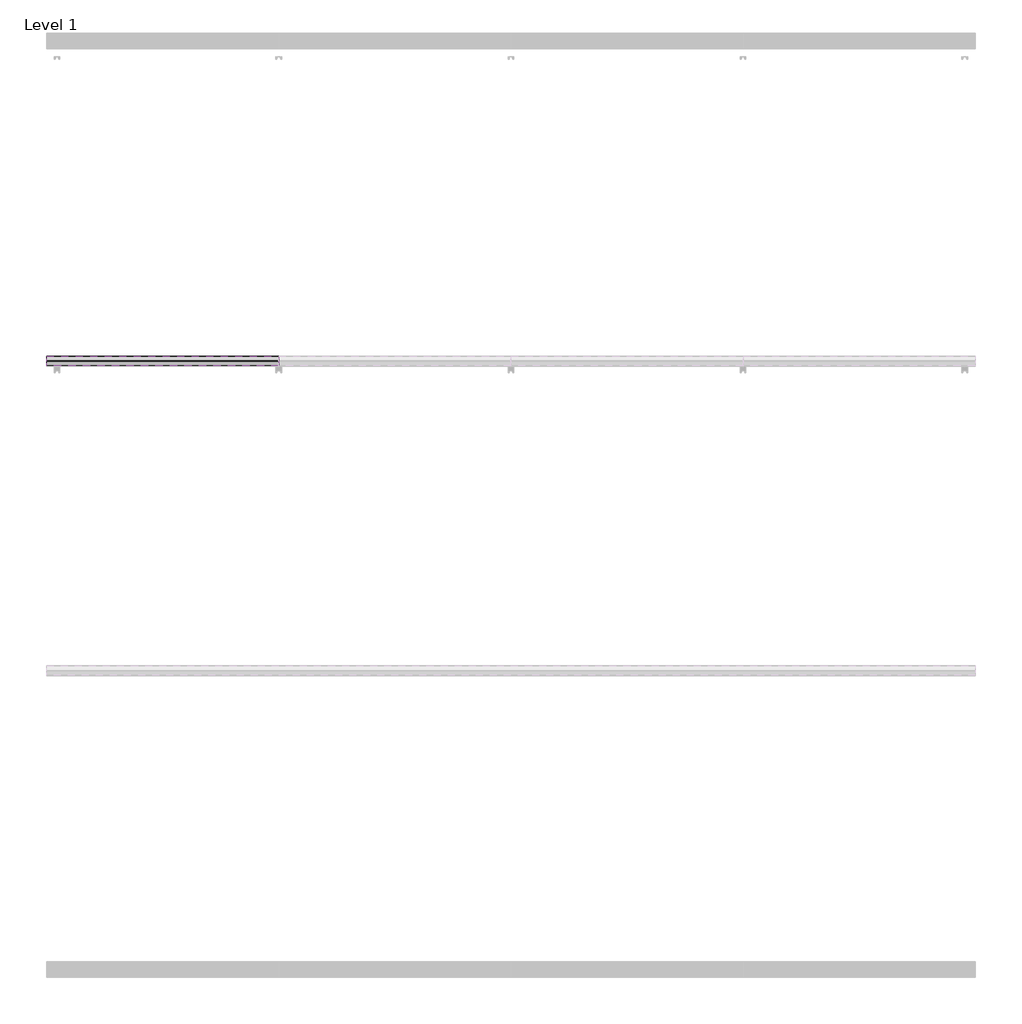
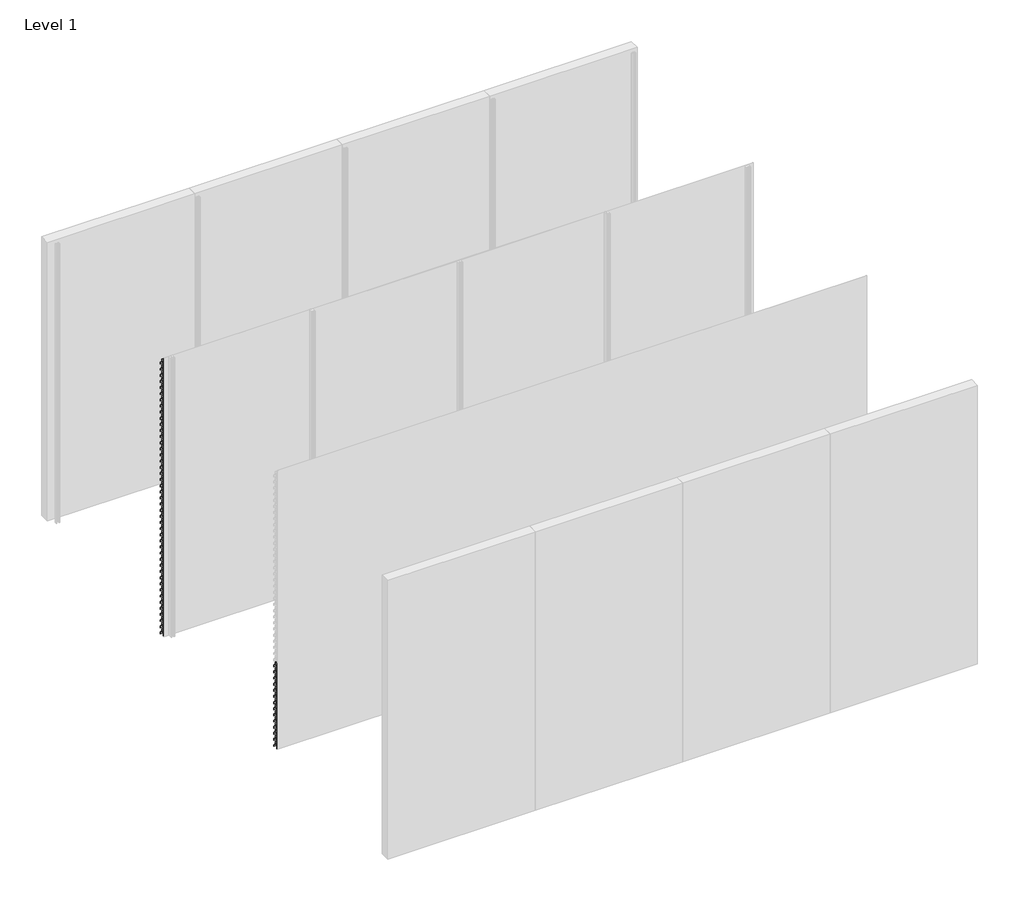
# One storey, part 26 of 35: 70 proxies.
"""IFC4 building model written with IfcOpenShell, lengths in millimetres."""

from ifc_helpers import new_model, si_unit, frame, origin, place, context, project, spatial, polyline, outline, extrude, element, save

model = new_model("IFC4")

# Units and contexts
model_context = context("Model", 3, world=origin())
ifc_project = project(units=[si_unit("LENGTHUNIT", "METRE", prefix="MILLI")], contexts=[model_context])

# Site, building, storey
site = spatial("IfcSite", under=ifc_project)
building = spatial("IfcBuilding", under=site)
storey = spatial("IfcBuildingStorey", under=building, Name="Level 1", Elevation=0.0)

# Proxies
placement = place(None, origin())
element("IfcBuildingElementProxy", 1, Name="Wall Sweeps", at=placement, inside=storey, context=model_context, shape_type="SweptSolid", body=[
    extrude(outline(polyline([(-11936.0, 2916.0), (-11936.0, 2896.0), (-11937.25, 2896.0), (-11937.25, 2915.4342979), (-11968.1138939, 2948.531772), (-11996.7, 2928.4392868), (-11996.7, 2909.6629874), (-11998.0, 2908.8506572), (-11998.0, 2929.1145472), (-11968.537525, 2949.823011), (-11968.537525, 2970.0), (-11967.1772624, 2970.0), (-11967.1772624, 2949.4335207), (-11936.0, 2916.0)])), frame((0.0, 0.0, 0.0), z_axis=(1.0, 0.0, 0.0), x_axis=(0.0, 1.0, 0.0)), (0.0, 0.0, 1.0), 1500.0),
])
element("IfcBuildingElementProxy", 2, Name="Wall Sweeps", at=placement, inside=storey, context=model_context, shape_type="SweptSolid", body=[
    extrude(outline(polyline([(-11936.0, 2850.0), (-11936.0, 2830.0), (-11937.25, 2830.0), (-11937.25, 2849.4342979), (-11968.1138939, 2882.531772), (-11996.7, 2862.4392868), (-11996.7, 2843.6629874), (-11998.0, 2842.8506572), (-11998.0, 2863.1145472), (-11968.537525, 2883.823011), (-11968.537525, 2904.0), (-11967.1772624, 2904.0), (-11967.1772624, 2883.4335207), (-11936.0, 2850.0)])), frame((0.0, 0.0, 0.0), z_axis=(1.0, 0.0, 0.0), x_axis=(0.0, 1.0, 0.0)), (0.0, 0.0, 1.0), 1500.0),
])
element("IfcBuildingElementProxy", 3, Name="Wall Sweeps", at=placement, inside=storey, context=model_context, shape_type="SweptSolid", body=[
    extrude(outline(polyline([(-11936.0, 2784.0), (-11936.0, 2764.0), (-11937.25, 2764.0), (-11937.25, 2783.4342979), (-11968.1138939, 2816.531772), (-11996.7, 2796.4392868), (-11996.7, 2777.6629874), (-11998.0, 2776.8506572), (-11998.0, 2797.1145472), (-11968.537525, 2817.823011), (-11968.537525, 2838.0), (-11967.1772624, 2838.0), (-11967.1772624, 2817.4335207), (-11936.0, 2784.0)])), frame((0.0, 0.0, 0.0), z_axis=(1.0, 0.0, 0.0), x_axis=(0.0, 1.0, 0.0)), (0.0, 0.0, 1.0), 1500.0),
])
element("IfcBuildingElementProxy", 4, Name="Wall Sweeps", at=placement, inside=storey, context=model_context, shape_type="SweptSolid", body=[
    extrude(outline(polyline([(-11936.0, 2718.0), (-11936.0, 2698.0), (-11937.25, 2698.0), (-11937.25, 2717.4342979), (-11968.1138939, 2750.531772), (-11996.7, 2730.4392868), (-11996.7, 2711.6629874), (-11998.0, 2710.8506572), (-11998.0, 2731.1145472), (-11968.537525, 2751.823011), (-11968.537525, 2772.0), (-11967.1772624, 2772.0), (-11967.1772624, 2751.4335207), (-11936.0, 2718.0)])), frame((0.0, 0.0, 0.0), z_axis=(1.0, 0.0, 0.0), x_axis=(0.0, 1.0, 0.0)), (0.0, 0.0, 1.0), 1500.0),
])
element("IfcBuildingElementProxy", 5, Name="Wall Sweeps", at=placement, inside=storey, context=model_context, shape_type="SweptSolid", body=[
    extrude(outline(polyline([(-11936.0, 2652.0), (-11936.0, 2632.0), (-11937.25, 2632.0), (-11937.25, 2651.4342979), (-11968.1138939, 2684.531772), (-11996.7, 2664.4392868), (-11996.7, 2645.6629874), (-11998.0, 2644.8506572), (-11998.0, 2665.1145472), (-11968.537525, 2685.823011), (-11968.537525, 2706.0), (-11967.1772624, 2706.0), (-11967.1772624, 2685.4335207), (-11936.0, 2652.0)])), frame((0.0, 0.0, 0.0), z_axis=(1.0, 0.0, 0.0), x_axis=(0.0, 1.0, 0.0)), (0.0, 0.0, 1.0), 1500.0),
])
element("IfcBuildingElementProxy", 6, Name="Wall Sweeps", at=placement, inside=storey, context=model_context, shape_type="SweptSolid", body=[
    extrude(outline(polyline([(-11936.0, 2586.0), (-11936.0, 2566.0), (-11937.25, 2566.0), (-11937.25, 2585.4342979), (-11968.1138939, 2618.531772), (-11996.7, 2598.4392868), (-11996.7, 2579.6629874), (-11998.0, 2578.8506572), (-11998.0, 2599.1145472), (-11968.537525, 2619.823011), (-11968.537525, 2640.0), (-11967.1772624, 2640.0), (-11967.1772624, 2619.4335207), (-11936.0, 2586.0)])), frame((0.0, 0.0, 0.0), z_axis=(1.0, 0.0, 0.0), x_axis=(0.0, 1.0, 0.0)), (0.0, 0.0, 1.0), 1500.0),
])
element("IfcBuildingElementProxy", 7, Name="Wall Sweeps", at=placement, inside=storey, context=model_context, shape_type="SweptSolid", body=[
    extrude(outline(polyline([(-11936.0, 2520.0), (-11936.0, 2500.0), (-11937.25, 2500.0), (-11937.25, 2519.4342979), (-11968.1138939, 2552.531772), (-11996.7, 2532.4392868), (-11996.7, 2513.6629874), (-11998.0, 2512.8506572), (-11998.0, 2533.1145472), (-11968.537525, 2553.823011), (-11968.537525, 2574.0), (-11967.1772624, 2574.0), (-11967.1772624, 2553.4335207), (-11936.0, 2520.0)])), frame((0.0, 0.0, 0.0), z_axis=(1.0, 0.0, 0.0), x_axis=(0.0, 1.0, 0.0)), (0.0, 0.0, 1.0), 1500.0),
])
element("IfcBuildingElementProxy", 8, Name="Wall Sweeps", at=placement, inside=storey, context=model_context, shape_type="SweptSolid", body=[
    extrude(outline(polyline([(-11936.0, 2454.0), (-11936.0, 2434.0), (-11937.25, 2434.0), (-11937.25, 2453.4342979), (-11968.1138939, 2486.531772), (-11996.7, 2466.4392868), (-11996.7, 2447.6629874), (-11998.0, 2446.8506572), (-11998.0, 2467.1145472), (-11968.537525, 2487.823011), (-11968.537525, 2508.0), (-11967.1772624, 2508.0), (-11967.1772624, 2487.4335207), (-11936.0, 2454.0)])), frame((0.0, 0.0, 0.0), z_axis=(1.0, 0.0, 0.0), x_axis=(0.0, 1.0, 0.0)), (0.0, 0.0, 1.0), 1500.0),
])
element("IfcBuildingElementProxy", 9, Name="Wall Sweeps", at=placement, inside=storey, context=model_context, shape_type="SweptSolid", body=[
    extrude(outline(polyline([(-11936.0, 2388.0), (-11936.0, 2368.0), (-11937.25, 2368.0), (-11937.25, 2387.4342979), (-11968.1138939, 2420.531772), (-11996.7, 2400.4392868), (-11996.7, 2381.6629874), (-11998.0, 2380.8506572), (-11998.0, 2401.1145472), (-11968.537525, 2421.823011), (-11968.537525, 2442.0), (-11967.1772624, 2442.0), (-11967.1772624, 2421.4335207), (-11936.0, 2388.0)])), frame((0.0, 0.0, 0.0), z_axis=(1.0, 0.0, 0.0), x_axis=(0.0, 1.0, 0.0)), (0.0, 0.0, 1.0), 1500.0),
])
element("IfcBuildingElementProxy", 10, Name="Wall Sweeps", at=placement, inside=storey, context=model_context, shape_type="SweptSolid", body=[
    extrude(outline(polyline([(-11936.0, 2322.0), (-11936.0, 2302.0), (-11937.25, 2302.0), (-11937.25, 2321.4342979), (-11968.1138939, 2354.531772), (-11996.7, 2334.4392868), (-11996.7, 2315.6629874), (-11998.0, 2314.8506572), (-11998.0, 2335.1145472), (-11968.537525, 2355.823011), (-11968.537525, 2376.0), (-11967.1772624, 2376.0), (-11967.1772624, 2355.4335207), (-11936.0, 2322.0)])), frame((0.0, 0.0, 0.0), z_axis=(1.0, 0.0, 0.0), x_axis=(0.0, 1.0, 0.0)), (0.0, 0.0, 1.0), 1500.0),
])
element("IfcBuildingElementProxy", 11, Name="Wall Sweeps", at=placement, inside=storey, context=model_context, shape_type="SweptSolid", body=[
    extrude(outline(polyline([(-11936.0, 2256.0), (-11936.0, 2236.0), (-11937.25, 2236.0), (-11937.25, 2255.4342979), (-11968.1138939, 2288.531772), (-11996.7, 2268.4392868), (-11996.7, 2249.6629874), (-11998.0, 2248.8506572), (-11998.0, 2269.1145472), (-11968.537525, 2289.823011), (-11968.537525, 2310.0), (-11967.1772624, 2310.0), (-11967.1772624, 2289.4335207), (-11936.0, 2256.0)])), frame((0.0, 0.0, 0.0), z_axis=(1.0, 0.0, 0.0), x_axis=(0.0, 1.0, 0.0)), (0.0, 0.0, 1.0), 1500.0),
])
element("IfcBuildingElementProxy", 12, Name="Wall Sweeps", at=placement, inside=storey, context=model_context, shape_type="SweptSolid", body=[
    extrude(outline(polyline([(-11936.0, 2190.0), (-11936.0, 2170.0), (-11937.25, 2170.0), (-11937.25, 2189.4342979), (-11968.1138939, 2222.531772), (-11996.7, 2202.4392868), (-11996.7, 2183.6629874), (-11998.0, 2182.8506572), (-11998.0, 2203.1145472), (-11968.537525, 2223.823011), (-11968.537525, 2244.0), (-11967.1772624, 2244.0), (-11967.1772624, 2223.4335207), (-11936.0, 2190.0)])), frame((0.0, 0.0, 0.0), z_axis=(1.0, 0.0, 0.0), x_axis=(0.0, 1.0, 0.0)), (0.0, 0.0, 1.0), 1500.0),
])
element("IfcBuildingElementProxy", 13, Name="Wall Sweeps", at=placement, inside=storey, context=model_context, shape_type="SweptSolid", body=[
    extrude(outline(polyline([(-11936.0, 2124.0), (-11936.0, 2104.0), (-11937.25, 2104.0), (-11937.25, 2123.4342979), (-11968.1138939, 2156.531772), (-11996.7, 2136.4392868), (-11996.7, 2117.6629874), (-11998.0, 2116.8506572), (-11998.0, 2137.1145472), (-11968.537525, 2157.823011), (-11968.537525, 2178.0), (-11967.1772624, 2178.0), (-11967.1772624, 2157.4335207), (-11936.0, 2124.0)])), frame((0.0, 0.0, 0.0), z_axis=(1.0, 0.0, 0.0), x_axis=(0.0, 1.0, 0.0)), (0.0, 0.0, 1.0), 1500.0),
])
element("IfcBuildingElementProxy", 14, Name="Wall Sweeps", at=placement, inside=storey, context=model_context, shape_type="SweptSolid", body=[
    extrude(outline(polyline([(-11936.0, 2058.0), (-11936.0, 2038.0), (-11937.25, 2038.0), (-11937.25, 2057.4342979), (-11968.1138939, 2090.531772), (-11996.7, 2070.4392868), (-11996.7, 2051.6629874), (-11998.0, 2050.8506572), (-11998.0, 2071.1145472), (-11968.537525, 2091.823011), (-11968.537525, 2112.0), (-11967.1772624, 2112.0), (-11967.1772624, 2091.4335207), (-11936.0, 2058.0)])), frame((0.0, 0.0, 0.0), z_axis=(1.0, 0.0, 0.0), x_axis=(0.0, 1.0, 0.0)), (0.0, 0.0, 1.0), 1500.0),
])
element("IfcBuildingElementProxy", 15, Name="Wall Sweeps", at=placement, inside=storey, context=model_context, shape_type="SweptSolid", body=[
    extrude(outline(polyline([(-11936.0, 1992.0), (-11936.0, 1972.0), (-11937.25, 1972.0), (-11937.25, 1991.4342979), (-11968.1138939, 2024.531772), (-11996.7, 2004.4392868), (-11996.7, 1985.6629874), (-11998.0, 1984.8506572), (-11998.0, 2005.1145472), (-11968.537525, 2025.823011), (-11968.537525, 2046.0), (-11967.1772624, 2046.0), (-11967.1772624, 2025.4335207), (-11936.0, 1992.0)])), frame((0.0, 0.0, 0.0), z_axis=(1.0, 0.0, 0.0), x_axis=(0.0, 1.0, 0.0)), (0.0, 0.0, 1.0), 1500.0),
])
element("IfcBuildingElementProxy", 16, Name="Wall Sweeps", at=placement, inside=storey, context=model_context, shape_type="SweptSolid", body=[
    extrude(outline(polyline([(-11936.0, 1926.0), (-11936.0, 1906.0), (-11937.25, 1906.0), (-11937.25, 1925.4342979), (-11968.1138939, 1958.531772), (-11996.7, 1938.4392868), (-11996.7, 1919.6629874), (-11998.0, 1918.8506572), (-11998.0, 1939.1145472), (-11968.537525, 1959.823011), (-11968.537525, 1980.0), (-11967.1772624, 1980.0), (-11967.1772624, 1959.4335207), (-11936.0, 1926.0)])), frame((0.0, 0.0, 0.0), z_axis=(1.0, 0.0, 0.0), x_axis=(0.0, 1.0, 0.0)), (0.0, 0.0, 1.0), 1500.0),
])
element("IfcBuildingElementProxy", 17, Name="Wall Sweeps", at=placement, inside=storey, context=model_context, shape_type="SweptSolid", body=[
    extrude(outline(polyline([(-11936.0, 1860.0), (-11936.0, 1840.0), (-11937.25, 1840.0), (-11937.25, 1859.4342979), (-11968.1138939, 1892.531772), (-11996.7, 1872.4392868), (-11996.7, 1853.6629874), (-11998.0, 1852.8506572), (-11998.0, 1873.1145472), (-11968.537525, 1893.823011), (-11968.537525, 1914.0), (-11967.1772624, 1914.0), (-11967.1772624, 1893.4335207), (-11936.0, 1860.0)])), frame((0.0, 0.0, 0.0), z_axis=(1.0, 0.0, 0.0), x_axis=(0.0, 1.0, 0.0)), (0.0, 0.0, 1.0), 1500.0),
])
element("IfcBuildingElementProxy", 18, Name="Wall Sweeps", at=placement, inside=storey, context=model_context, shape_type="SweptSolid", body=[
    extrude(outline(polyline([(-11936.0, 1794.0), (-11936.0, 1774.0), (-11937.25, 1774.0), (-11937.25, 1793.4342979), (-11968.1138939, 1826.531772), (-11996.7, 1806.4392868), (-11996.7, 1787.6629874), (-11998.0, 1786.8506572), (-11998.0, 1807.1145472), (-11968.537525, 1827.823011), (-11968.537525, 1848.0), (-11967.1772624, 1848.0), (-11967.1772624, 1827.4335207), (-11936.0, 1794.0)])), frame((0.0, 0.0, 0.0), z_axis=(1.0, 0.0, 0.0), x_axis=(0.0, 1.0, 0.0)), (0.0, 0.0, 1.0), 1500.0),
])
element("IfcBuildingElementProxy", 19, Name="Wall Sweeps", at=placement, inside=storey, context=model_context, shape_type="SweptSolid", body=[
    extrude(outline(polyline([(-11936.0, 1728.0), (-11936.0, 1708.0), (-11937.25, 1708.0), (-11937.25, 1727.4342979), (-11968.1138939, 1760.531772), (-11996.7, 1740.4392868), (-11996.7, 1721.6629874), (-11998.0, 1720.8506572), (-11998.0, 1741.1145472), (-11968.537525, 1761.823011), (-11968.537525, 1782.0), (-11967.1772624, 1782.0), (-11967.1772624, 1761.4335207), (-11936.0, 1728.0)])), frame((0.0, 0.0, 0.0), z_axis=(1.0, 0.0, 0.0), x_axis=(0.0, 1.0, 0.0)), (0.0, 0.0, 1.0), 1500.0),
])
element("IfcBuildingElementProxy", 20, Name="Wall Sweeps", at=placement, inside=storey, context=model_context, shape_type="SweptSolid", body=[
    extrude(outline(polyline([(-11936.0, 1662.0), (-11936.0, 1642.0), (-11937.25, 1642.0), (-11937.25, 1661.4342979), (-11968.1138939, 1694.531772), (-11996.7, 1674.4392868), (-11996.7, 1655.6629874), (-11998.0, 1654.8506572), (-11998.0, 1675.1145472), (-11968.537525, 1695.823011), (-11968.537525, 1716.0), (-11967.1772624, 1716.0), (-11967.1772624, 1695.4335207), (-11936.0, 1662.0)])), frame((0.0, 0.0, 0.0), z_axis=(1.0, 0.0, 0.0), x_axis=(0.0, 1.0, 0.0)), (0.0, 0.0, 1.0), 1500.0),
])
element("IfcBuildingElementProxy", 21, Name="Wall Sweeps", at=placement, inside=storey, context=model_context, shape_type="SweptSolid", body=[
    extrude(outline(polyline([(-11936.0, 1596.0), (-11936.0, 1576.0), (-11937.25, 1576.0), (-11937.25, 1595.4342979), (-11968.1138939, 1628.531772), (-11996.7, 1608.4392868), (-11996.7, 1589.6629874), (-11998.0, 1588.8506572), (-11998.0, 1609.1145472), (-11968.537525, 1629.823011), (-11968.537525, 1650.0), (-11967.1772624, 1650.0), (-11967.1772624, 1629.4335207), (-11936.0, 1596.0)])), frame((0.0, 0.0, 0.0), z_axis=(1.0, 0.0, 0.0), x_axis=(0.0, 1.0, 0.0)), (0.0, 0.0, 1.0), 1500.0),
])
element("IfcBuildingElementProxy", 22, Name="Wall Sweeps", at=placement, inside=storey, context=model_context, shape_type="SweptSolid", body=[
    extrude(outline(polyline([(-11936.0, 1530.0), (-11936.0, 1510.0), (-11937.25, 1510.0), (-11937.25, 1529.4342979), (-11968.1138939, 1562.531772), (-11996.7, 1542.4392868), (-11996.7, 1523.6629874), (-11998.0, 1522.8506572), (-11998.0, 1543.1145472), (-11968.537525, 1563.823011), (-11968.537525, 1584.0), (-11967.1772624, 1584.0), (-11967.1772624, 1563.4335207), (-11936.0, 1530.0)])), frame((0.0, 0.0, 0.0), z_axis=(1.0, 0.0, 0.0), x_axis=(0.0, 1.0, 0.0)), (0.0, 0.0, 1.0), 1500.0),
])
element("IfcBuildingElementProxy", 23, Name="Wall Sweeps", at=placement, inside=storey, context=model_context, shape_type="SweptSolid", body=[
    extrude(outline(polyline([(-11936.0, 1464.0), (-11936.0, 1444.0), (-11937.25, 1444.0), (-11937.25, 1463.4342979), (-11968.1138939, 1496.531772), (-11996.7, 1476.4392868), (-11996.7, 1457.6629874), (-11998.0, 1456.8506572), (-11998.0, 1477.1145472), (-11968.537525, 1497.823011), (-11968.537525, 1518.0), (-11967.1772624, 1518.0), (-11967.1772624, 1497.4335207), (-11936.0, 1464.0)])), frame((0.0, 0.0, 0.0), z_axis=(1.0, 0.0, 0.0), x_axis=(0.0, 1.0, 0.0)), (0.0, 0.0, 1.0), 1500.0),
])
element("IfcBuildingElementProxy", 24, Name="Wall Sweeps", at=placement, inside=storey, context=model_context, shape_type="SweptSolid", body=[
    extrude(outline(polyline([(-11936.0, 1398.0), (-11936.0, 1378.0), (-11937.25, 1378.0), (-11937.25, 1397.4342979), (-11968.1138939, 1430.531772), (-11996.7, 1410.4392868), (-11996.7, 1391.6629874), (-11998.0, 1390.8506572), (-11998.0, 1411.1145472), (-11968.537525, 1431.823011), (-11968.537525, 1452.0), (-11967.1772624, 1452.0), (-11967.1772624, 1431.4335207), (-11936.0, 1398.0)])), frame((0.0, 0.0, 0.0), z_axis=(1.0, 0.0, 0.0), x_axis=(0.0, 1.0, 0.0)), (0.0, 0.0, 1.0), 1500.0),
])
element("IfcBuildingElementProxy", 25, Name="Wall Sweeps", at=placement, inside=storey, context=model_context, shape_type="SweptSolid", body=[
    extrude(outline(polyline([(-11936.0, 1332.0), (-11936.0, 1312.0), (-11937.25, 1312.0), (-11937.25, 1331.4342979), (-11968.1138939, 1364.531772), (-11996.7, 1344.4392868), (-11996.7, 1325.6629874), (-11998.0, 1324.8506572), (-11998.0, 1345.1145472), (-11968.537525, 1365.823011), (-11968.537525, 1386.0), (-11967.1772624, 1386.0), (-11967.1772624, 1365.4335207), (-11936.0, 1332.0)])), frame((0.0, 0.0, 0.0), z_axis=(1.0, 0.0, 0.0), x_axis=(0.0, 1.0, 0.0)), (0.0, 0.0, 1.0), 1500.0),
])
element("IfcBuildingElementProxy", 26, Name="Wall Sweeps", at=placement, inside=storey, context=model_context, shape_type="SweptSolid", body=[
    extrude(outline(polyline([(-11936.0, 1266.0), (-11936.0, 1246.0), (-11937.25, 1246.0), (-11937.25, 1265.4342979), (-11968.1138939, 1298.531772), (-11996.7, 1278.4392868), (-11996.7, 1259.6629874), (-11998.0, 1258.8506572), (-11998.0, 1279.1145472), (-11968.537525, 1299.823011), (-11968.537525, 1320.0), (-11967.1772624, 1320.0), (-11967.1772624, 1299.4335207), (-11936.0, 1266.0)])), frame((0.0, 0.0, 0.0), z_axis=(1.0, 0.0, 0.0), x_axis=(0.0, 1.0, 0.0)), (0.0, 0.0, 1.0), 1500.0),
])
element("IfcBuildingElementProxy", 27, Name="Wall Sweeps", at=placement, inside=storey, context=model_context, shape_type="SweptSolid", body=[
    extrude(outline(polyline([(-11936.0, 1200.0), (-11936.0, 1180.0), (-11937.25, 1180.0), (-11937.25, 1199.4342979), (-11968.1138939, 1232.531772), (-11996.7, 1212.4392868), (-11996.7, 1193.6629874), (-11998.0, 1192.8506572), (-11998.0, 1213.1145472), (-11968.537525, 1233.823011), (-11968.537525, 1254.0), (-11967.1772624, 1254.0), (-11967.1772624, 1233.4335207), (-11936.0, 1200.0)])), frame((0.0, 0.0, 0.0), z_axis=(1.0, 0.0, 0.0), x_axis=(0.0, 1.0, 0.0)), (0.0, 0.0, 1.0), 1500.0),
])
element("IfcBuildingElementProxy", 28, Name="Wall Sweeps", at=placement, inside=storey, context=model_context, shape_type="SweptSolid", body=[
    extrude(outline(polyline([(-11936.0, 1134.0), (-11936.0, 1114.0), (-11937.25, 1114.0), (-11937.25, 1133.4342979), (-11968.1138939, 1166.531772), (-11996.7, 1146.4392868), (-11996.7, 1127.6629874), (-11998.0, 1126.8506572), (-11998.0, 1147.1145472), (-11968.537525, 1167.823011), (-11968.537525, 1188.0), (-11967.1772624, 1188.0), (-11967.1772624, 1167.4335207), (-11936.0, 1134.0)])), frame((0.0, 0.0, 0.0), z_axis=(1.0, 0.0, 0.0), x_axis=(0.0, 1.0, 0.0)), (0.0, 0.0, 1.0), 1500.0),
])
element("IfcBuildingElementProxy", 29, Name="Wall Sweeps", at=placement, inside=storey, context=model_context, shape_type="SweptSolid", body=[
    extrude(outline(polyline([(-11936.0, 1068.0), (-11936.0, 1048.0), (-11937.25, 1048.0), (-11937.25, 1067.4342979), (-11968.1138939, 1100.531772), (-11996.7, 1080.4392868), (-11996.7, 1061.6629874), (-11998.0, 1060.8506572), (-11998.0, 1081.1145472), (-11968.537525, 1101.823011), (-11968.537525, 1122.0), (-11967.1772624, 1122.0), (-11967.1772624, 1101.4335207), (-11936.0, 1068.0)])), frame((0.0, 0.0, 0.0), z_axis=(1.0, 0.0, 0.0), x_axis=(0.0, 1.0, 0.0)), (0.0, 0.0, 1.0), 1500.0),
])
element("IfcBuildingElementProxy", 30, Name="Wall Sweeps", at=placement, inside=storey, context=model_context, shape_type="SweptSolid", body=[
    extrude(outline(polyline([(-11936.0, 1002.0), (-11936.0, 982.0), (-11937.25, 982.0), (-11937.25, 1001.4342979), (-11968.1138939, 1034.531772), (-11996.7, 1014.4392868), (-11996.7, 995.6629874), (-11998.0, 994.8506572), (-11998.0, 1015.1145472), (-11968.537525, 1035.823011), (-11968.537525, 1056.0), (-11967.1772624, 1056.0), (-11967.1772624, 1035.4335207), (-11936.0, 1002.0)])), frame((0.0, 0.0, 0.0), z_axis=(1.0, 0.0, 0.0), x_axis=(0.0, 1.0, 0.0)), (0.0, 0.0, 1.0), 1500.0),
])
element("IfcBuildingElementProxy", 31, Name="Wall Sweeps", at=placement, inside=storey, context=model_context, shape_type="SweptSolid", body=[
    extrude(outline(polyline([(-11936.0, 936.0), (-11936.0, 916.0), (-11937.25, 916.0), (-11937.25, 935.4342979), (-11968.1138939, 968.531772), (-11996.7, 948.4392868), (-11996.7, 929.6629874), (-11998.0, 928.8506572), (-11998.0, 949.1145472), (-11968.537525, 969.823011), (-11968.537525, 990.0), (-11967.1772624, 990.0), (-11967.1772624, 969.4335207), (-11936.0, 936.0)])), frame((0.0, 0.0, 0.0), z_axis=(1.0, 0.0, 0.0), x_axis=(0.0, 1.0, 0.0)), (0.0, 0.0, 1.0), 1500.0),
])
element("IfcBuildingElementProxy", 32, Name="Wall Sweeps", at=placement, inside=storey, context=model_context, shape_type="SweptSolid", body=[
    extrude(outline(polyline([(-11936.0, 870.0), (-11936.0, 850.0), (-11937.25, 850.0), (-11937.25, 869.4342979), (-11968.1138939, 902.531772), (-11996.7, 882.4392868), (-11996.7, 863.6629874), (-11998.0, 862.8506572), (-11998.0, 883.1145472), (-11968.537525, 903.823011), (-11968.537525, 924.0), (-11967.1772624, 924.0), (-11967.1772624, 903.4335207), (-11936.0, 870.0)])), frame((0.0, 0.0, 0.0), z_axis=(1.0, 0.0, 0.0), x_axis=(0.0, 1.0, 0.0)), (0.0, 0.0, 1.0), 1500.0),
])
element("IfcBuildingElementProxy", 33, Name="Wall Sweeps", at=placement, inside=storey, context=model_context, shape_type="SweptSolid", body=[
    extrude(outline(polyline([(-11936.0, 804.0), (-11936.0, 784.0), (-11937.25, 784.0), (-11937.25, 803.4342979), (-11968.1138939, 836.531772), (-11996.7, 816.4392868), (-11996.7, 797.6629874), (-11998.0, 796.8506572), (-11998.0, 817.1145472), (-11968.537525, 837.823011), (-11968.537525, 858.0), (-11967.1772624, 858.0), (-11967.1772624, 837.4335207), (-11936.0, 804.0)])), frame((0.0, 0.0, 0.0), z_axis=(1.0, 0.0, 0.0), x_axis=(0.0, 1.0, 0.0)), (0.0, 0.0, 1.0), 1500.0),
])
element("IfcBuildingElementProxy", 34, Name="Wall Sweeps", at=placement, inside=storey, context=model_context, shape_type="SweptSolid", body=[
    extrude(outline(polyline([(-11936.0, 738.0), (-11936.0, 718.0), (-11937.25, 718.0), (-11937.25, 737.4342979), (-11968.1138939, 770.531772), (-11996.7, 750.4392868), (-11996.7, 731.6629874), (-11998.0, 730.8506572), (-11998.0, 751.1145472), (-11968.537525, 771.823011), (-11968.537525, 792.0), (-11967.1772624, 792.0), (-11967.1772624, 771.4335207), (-11936.0, 738.0)])), frame((0.0, 0.0, 0.0), z_axis=(1.0, 0.0, 0.0), x_axis=(0.0, 1.0, 0.0)), (0.0, 0.0, 1.0), 1500.0),
])
element("IfcBuildingElementProxy", 35, Name="Wall Sweeps", at=placement, inside=storey, context=model_context, shape_type="SweptSolid", body=[
    extrude(outline(polyline([(-11936.0, 672.0), (-11936.0, 652.0), (-11937.25, 652.0), (-11937.25, 671.4342979), (-11968.1138939, 704.531772), (-11996.7, 684.4392868), (-11996.7, 665.6629874), (-11998.0, 664.8506572), (-11998.0, 685.1145472), (-11968.537525, 705.823011), (-11968.537525, 726.0), (-11967.1772624, 726.0), (-11967.1772624, 705.4335207), (-11936.0, 672.0)])), frame((0.0, 0.0, 0.0), z_axis=(1.0, 0.0, 0.0), x_axis=(0.0, 1.0, 0.0)), (0.0, 0.0, 1.0), 1500.0),
])
element("IfcBuildingElementProxy", 36, Name="Wall Sweeps", at=placement, inside=storey, context=model_context, shape_type="SweptSolid", body=[
    extrude(outline(polyline([(-11936.0, 606.0), (-11936.0, 586.0), (-11937.25, 586.0), (-11937.25, 605.4342979), (-11968.1138939, 638.531772), (-11996.7, 618.4392868), (-11996.7, 599.6629874), (-11998.0, 598.8506572), (-11998.0, 619.1145472), (-11968.537525, 639.823011), (-11968.537525, 660.0), (-11967.1772624, 660.0), (-11967.1772624, 639.4335207), (-11936.0, 606.0)])), frame((0.0, 0.0, 0.0), z_axis=(1.0, 0.0, 0.0), x_axis=(0.0, 1.0, 0.0)), (0.0, 0.0, 1.0), 1500.0),
])
element("IfcBuildingElementProxy", 37, Name="Wall Sweeps", at=placement, inside=storey, context=model_context, shape_type="SweptSolid", body=[
    extrude(outline(polyline([(-11936.0, 540.0), (-11936.0, 520.0), (-11937.25, 520.0), (-11937.25, 539.4342979), (-11968.1138939, 572.531772), (-11996.7, 552.4392868), (-11996.7, 533.6629874), (-11998.0, 532.8506572), (-11998.0, 553.1145472), (-11968.537525, 573.823011), (-11968.537525, 594.0), (-11967.1772624, 594.0), (-11967.1772624, 573.4335207), (-11936.0, 540.0)])), frame((0.0, 0.0, 0.0), z_axis=(1.0, 0.0, 0.0), x_axis=(0.0, 1.0, 0.0)), (0.0, 0.0, 1.0), 1500.0),
])
element("IfcBuildingElementProxy", 38, Name="Wall Sweeps", at=placement, inside=storey, context=model_context, shape_type="SweptSolid", body=[
    extrude(outline(polyline([(-11936.0, 474.0), (-11936.0, 454.0), (-11937.25, 454.0), (-11937.25, 473.4342979), (-11968.1138939, 506.531772), (-11996.7, 486.4392868), (-11996.7, 467.6629874), (-11998.0, 466.8506572), (-11998.0, 487.1145472), (-11968.537525, 507.823011), (-11968.537525, 528.0), (-11967.1772624, 528.0), (-11967.1772624, 507.4335207), (-11936.0, 474.0)])), frame((0.0, 0.0, 0.0), z_axis=(1.0, 0.0, 0.0), x_axis=(0.0, 1.0, 0.0)), (0.0, 0.0, 1.0), 1500.0),
])
element("IfcBuildingElementProxy", 39, Name="Wall Sweeps", at=placement, inside=storey, context=model_context, shape_type="SweptSolid", body=[
    extrude(outline(polyline([(-11936.0, 408.0), (-11936.0, 388.0), (-11937.25, 388.0), (-11937.25, 407.4342979), (-11968.1138939, 440.531772), (-11996.7, 420.4392868), (-11996.7, 401.6629874), (-11998.0, 400.8506572), (-11998.0, 421.1145472), (-11968.537525, 441.823011), (-11968.537525, 462.0), (-11967.1772624, 462.0), (-11967.1772624, 441.4335207), (-11936.0, 408.0)])), frame((0.0, 0.0, 0.0), z_axis=(1.0, 0.0, 0.0), x_axis=(0.0, 1.0, 0.0)), (0.0, 0.0, 1.0), 1500.0),
])
element("IfcBuildingElementProxy", 40, Name="Wall Sweeps", at=placement, inside=storey, context=model_context, shape_type="SweptSolid", body=[
    extrude(outline(polyline([(-11936.0, 342.0), (-11936.0, 322.0), (-11937.25, 322.0), (-11937.25, 341.4342979), (-11968.1138939, 374.531772), (-11996.7, 354.4392868), (-11996.7, 335.6629874), (-11998.0, 334.8506572), (-11998.0, 355.1145472), (-11968.537525, 375.823011), (-11968.537525, 396.0), (-11967.1772624, 396.0), (-11967.1772624, 375.4335207), (-11936.0, 342.0)])), frame((0.0, 0.0, 0.0), z_axis=(1.0, 0.0, 0.0), x_axis=(0.0, 1.0, 0.0)), (0.0, 0.0, 1.0), 1500.0),
])
element("IfcBuildingElementProxy", 41, Name="Wall Sweeps", at=placement, inside=storey, context=model_context, shape_type="SweptSolid", body=[
    extrude(outline(polyline([(-11936.0, 276.0), (-11936.0, 256.0), (-11937.25, 256.0), (-11937.25, 275.4342979), (-11968.1138939, 308.531772), (-11996.7, 288.4392868), (-11996.7, 269.6629874), (-11998.0, 268.8506572), (-11998.0, 289.1145472), (-11968.537525, 309.823011), (-11968.537525, 330.0), (-11967.1772624, 330.0), (-11967.1772624, 309.4335207), (-11936.0, 276.0)])), frame((0.0, 0.0, 0.0), z_axis=(1.0, 0.0, 0.0), x_axis=(0.0, 1.0, 0.0)), (0.0, 0.0, 1.0), 1500.0),
])
element("IfcBuildingElementProxy", 42, Name="Wall Sweeps", at=placement, inside=storey, context=model_context, shape_type="SweptSolid", body=[
    extrude(outline(polyline([(-11936.0, 210.0), (-11936.0, 190.0), (-11937.25, 190.0), (-11937.25, 209.4342979), (-11968.1138939, 242.531772), (-11996.7, 222.4392868), (-11996.7, 203.6629874), (-11998.0, 202.8506572), (-11998.0, 223.1145472), (-11968.537525, 243.823011), (-11968.537525, 264.0), (-11967.1772624, 264.0), (-11967.1772624, 243.4335207), (-11936.0, 210.0)])), frame((0.0, 0.0, 0.0), z_axis=(1.0, 0.0, 0.0), x_axis=(0.0, 1.0, 0.0)), (0.0, 0.0, 1.0), 1500.0),
])
element("IfcBuildingElementProxy", 43, Name="Wall Sweeps", at=placement, inside=storey, context=model_context, shape_type="SweptSolid", body=[
    extrude(outline(polyline([(-11936.0, 144.0), (-11936.0, 124.0), (-11937.25, 124.0), (-11937.25, 143.4342979), (-11968.1138939, 176.531772), (-11996.7, 156.4392868), (-11996.7, 137.6629874), (-11998.0, 136.8506572), (-11998.0, 157.1145472), (-11968.537525, 177.823011), (-11968.537525, 198.0), (-11967.1772624, 198.0), (-11967.1772624, 177.4335207), (-11936.0, 144.0)])), frame((0.0, 0.0, 0.0), z_axis=(1.0, 0.0, 0.0), x_axis=(0.0, 1.0, 0.0)), (0.0, 0.0, 1.0), 1500.0),
])
element("IfcBuildingElementProxy", 44, Name="Wall Sweeps", at=placement, inside=storey, context=model_context, shape_type="SweptSolid", body=[
    extrude(outline(polyline([(-11936.0, 78.0), (-11936.0, 58.0), (-11937.25, 58.0), (-11937.25, 77.4342979), (-11968.1138939, 110.531772), (-11996.7, 90.4392868), (-11996.7, 71.6629874), (-11998.0, 70.8506572), (-11998.0, 91.1145472), (-11968.537525, 111.823011), (-11968.537525, 132.0), (-11967.1772624, 132.0), (-11967.1772624, 111.4335207), (-11936.0, 78.0)])), frame((0.0, 0.0, 0.0), z_axis=(1.0, 0.0, 0.0), x_axis=(0.0, 1.0, 0.0)), (0.0, 0.0, 1.0), 1500.0),
])
element("IfcBuildingElementProxy", 45, Name="Wall Sweeps", at=placement, inside=storey, context=model_context, shape_type="SweptSolid", body=[
    extrude(outline(polyline([(-11936.0, 12.0), (-11936.0, -8.0), (-11937.25, -8.0), (-11937.25, 11.4342979), (-11968.1138939, 44.531772), (-11996.7, 24.4392868), (-11996.7, 5.6629874), (-11998.0, 4.8506572), (-11998.0, 25.1145472), (-11968.537525, 45.823011), (-11968.537525, 66.0), (-11967.1772624, 66.0), (-11967.1772624, 45.4335207), (-11936.0, 12.0)])), frame((0.0, 0.0, 0.0), z_axis=(1.0, 0.0, 0.0), x_axis=(0.0, 1.0, 0.0)), (0.0, 0.0, 1.0), 1500.0),
])
element("IfcBuildingElementProxy", 46, Name="Wall Sweeps", at=placement, inside=storey, context=model_context, shape_type="SweptSolid", body=[
    extrude(outline(polyline([(-11936.0, 2916.0), (-11936.0, 2896.0), (-11937.25, 2896.0), (-11937.25, 2915.4342979), (-11968.1138939, 2948.531772), (-11996.7, 2928.4392868), (-11996.7, 2909.6629874), (-11998.0, 2908.8506572), (-11998.0, 2929.1145472), (-11968.537525, 2949.823011), (-11968.537525, 2970.0), (-11967.1772624, 2970.0), (-11967.1772624, 2949.4335207), (-11936.0, 2916.0)])), frame((1500.0, 0.0, 0.0), z_axis=(1.0, 0.0, 0.0), x_axis=(0.0, 1.0, 0.0)), (0.0, 0.0, 1.0), 1500.0),
])
element("IfcBuildingElementProxy", 47, Name="Wall Sweeps", at=placement, inside=storey, context=model_context, shape_type="SweptSolid", body=[
    extrude(outline(polyline([(-11936.0, 2850.0), (-11936.0, 2830.0), (-11937.25, 2830.0), (-11937.25, 2849.4342979), (-11968.1138939, 2882.531772), (-11996.7, 2862.4392868), (-11996.7, 2843.6629874), (-11998.0, 2842.8506572), (-11998.0, 2863.1145472), (-11968.537525, 2883.823011), (-11968.537525, 2904.0), (-11967.1772624, 2904.0), (-11967.1772624, 2883.4335207), (-11936.0, 2850.0)])), frame((1500.0, 0.0, 0.0), z_axis=(1.0, 0.0, 0.0), x_axis=(0.0, 1.0, 0.0)), (0.0, 0.0, 1.0), 1500.0),
])
element("IfcBuildingElementProxy", 48, Name="Wall Sweeps", at=placement, inside=storey, context=model_context, shape_type="SweptSolid", body=[
    extrude(outline(polyline([(-11936.0, 2784.0), (-11936.0, 2764.0), (-11937.25, 2764.0), (-11937.25, 2783.4342979), (-11968.1138939, 2816.531772), (-11996.7, 2796.4392868), (-11996.7, 2777.6629874), (-11998.0, 2776.8506572), (-11998.0, 2797.1145472), (-11968.537525, 2817.823011), (-11968.537525, 2838.0), (-11967.1772624, 2838.0), (-11967.1772624, 2817.4335207), (-11936.0, 2784.0)])), frame((1500.0, 0.0, 0.0), z_axis=(1.0, 0.0, 0.0), x_axis=(0.0, 1.0, 0.0)), (0.0, 0.0, 1.0), 1500.0),
])
element("IfcBuildingElementProxy", 49, Name="Wall Sweeps", at=placement, inside=storey, context=model_context, shape_type="SweptSolid", body=[
    extrude(outline(polyline([(-11936.0, 2718.0), (-11936.0, 2698.0), (-11937.25, 2698.0), (-11937.25, 2717.4342979), (-11968.1138939, 2750.531772), (-11996.7, 2730.4392868), (-11996.7, 2711.6629874), (-11998.0, 2710.8506572), (-11998.0, 2731.1145472), (-11968.537525, 2751.823011), (-11968.537525, 2772.0), (-11967.1772624, 2772.0), (-11967.1772624, 2751.4335207), (-11936.0, 2718.0)])), frame((1500.0, 0.0, 0.0), z_axis=(1.0, 0.0, 0.0), x_axis=(0.0, 1.0, 0.0)), (0.0, 0.0, 1.0), 1500.0),
])
element("IfcBuildingElementProxy", 50, Name="Wall Sweeps", at=placement, inside=storey, context=model_context, shape_type="SweptSolid", body=[
    extrude(outline(polyline([(-11936.0, 2652.0), (-11936.0, 2632.0), (-11937.25, 2632.0), (-11937.25, 2651.4342979), (-11968.1138939, 2684.531772), (-11996.7, 2664.4392868), (-11996.7, 2645.6629874), (-11998.0, 2644.8506572), (-11998.0, 2665.1145472), (-11968.537525, 2685.823011), (-11968.537525, 2706.0), (-11967.1772624, 2706.0), (-11967.1772624, 2685.4335207), (-11936.0, 2652.0)])), frame((1500.0, 0.0, 0.0), z_axis=(1.0, 0.0, 0.0), x_axis=(0.0, 1.0, 0.0)), (0.0, 0.0, 1.0), 1500.0),
])
element("IfcBuildingElementProxy", 51, Name="Wall Sweeps", at=placement, inside=storey, context=model_context, shape_type="SweptSolid", body=[
    extrude(outline(polyline([(-11936.0, 2586.0), (-11936.0, 2566.0), (-11937.25, 2566.0), (-11937.25, 2585.4342979), (-11968.1138939, 2618.531772), (-11996.7, 2598.4392868), (-11996.7, 2579.6629874), (-11998.0, 2578.8506572), (-11998.0, 2599.1145472), (-11968.537525, 2619.823011), (-11968.537525, 2640.0), (-11967.1772624, 2640.0), (-11967.1772624, 2619.4335207), (-11936.0, 2586.0)])), frame((1500.0, 0.0, 0.0), z_axis=(1.0, 0.0, 0.0), x_axis=(0.0, 1.0, 0.0)), (0.0, 0.0, 1.0), 1500.0),
])
element("IfcBuildingElementProxy", 52, Name="Wall Sweeps", at=placement, inside=storey, context=model_context, shape_type="SweptSolid", body=[
    extrude(outline(polyline([(-11936.0, 2520.0), (-11936.0, 2500.0), (-11937.25, 2500.0), (-11937.25, 2519.4342979), (-11968.1138939, 2552.531772), (-11996.7, 2532.4392868), (-11996.7, 2513.6629874), (-11998.0, 2512.8506572), (-11998.0, 2533.1145472), (-11968.537525, 2553.823011), (-11968.537525, 2574.0), (-11967.1772624, 2574.0), (-11967.1772624, 2553.4335207), (-11936.0, 2520.0)])), frame((1500.0, 0.0, 0.0), z_axis=(1.0, 0.0, 0.0), x_axis=(0.0, 1.0, 0.0)), (0.0, 0.0, 1.0), 1500.0),
])
element("IfcBuildingElementProxy", 53, Name="Wall Sweeps", at=placement, inside=storey, context=model_context, shape_type="SweptSolid", body=[
    extrude(outline(polyline([(-11936.0, 2454.0), (-11936.0, 2434.0), (-11937.25, 2434.0), (-11937.25, 2453.4342979), (-11968.1138939, 2486.531772), (-11996.7, 2466.4392868), (-11996.7, 2447.6629874), (-11998.0, 2446.8506572), (-11998.0, 2467.1145472), (-11968.537525, 2487.823011), (-11968.537525, 2508.0), (-11967.1772624, 2508.0), (-11967.1772624, 2487.4335207), (-11936.0, 2454.0)])), frame((1500.0, 0.0, 0.0), z_axis=(1.0, 0.0, 0.0), x_axis=(0.0, 1.0, 0.0)), (0.0, 0.0, 1.0), 1500.0),
])
element("IfcBuildingElementProxy", 54, Name="Wall Sweeps", at=placement, inside=storey, context=model_context, shape_type="SweptSolid", body=[
    extrude(outline(polyline([(-11936.0, 2388.0), (-11936.0, 2368.0), (-11937.25, 2368.0), (-11937.25, 2387.4342979), (-11968.1138939, 2420.531772), (-11996.7, 2400.4392868), (-11996.7, 2381.6629874), (-11998.0, 2380.8506572), (-11998.0, 2401.1145472), (-11968.537525, 2421.823011), (-11968.537525, 2442.0), (-11967.1772624, 2442.0), (-11967.1772624, 2421.4335207), (-11936.0, 2388.0)])), frame((1500.0, 0.0, 0.0), z_axis=(1.0, 0.0, 0.0), x_axis=(0.0, 1.0, 0.0)), (0.0, 0.0, 1.0), 1500.0),
])
element("IfcBuildingElementProxy", 55, Name="Wall Sweeps", at=placement, inside=storey, context=model_context, shape_type="SweptSolid", body=[
    extrude(outline(polyline([(-11936.0, 2322.0), (-11936.0, 2302.0), (-11937.25, 2302.0), (-11937.25, 2321.4342979), (-11968.1138939, 2354.531772), (-11996.7, 2334.4392868), (-11996.7, 2315.6629874), (-11998.0, 2314.8506572), (-11998.0, 2335.1145472), (-11968.537525, 2355.823011), (-11968.537525, 2376.0), (-11967.1772624, 2376.0), (-11967.1772624, 2355.4335207), (-11936.0, 2322.0)])), frame((1500.0, 0.0, 0.0), z_axis=(1.0, 0.0, 0.0), x_axis=(0.0, 1.0, 0.0)), (0.0, 0.0, 1.0), 1500.0),
])
element("IfcBuildingElementProxy", 56, Name="Wall Sweeps", at=placement, inside=storey, context=model_context, shape_type="SweptSolid", body=[
    extrude(outline(polyline([(-11936.0, 2256.0), (-11936.0, 2236.0), (-11937.25, 2236.0), (-11937.25, 2255.4342979), (-11968.1138939, 2288.531772), (-11996.7, 2268.4392868), (-11996.7, 2249.6629874), (-11998.0, 2248.8506572), (-11998.0, 2269.1145472), (-11968.537525, 2289.823011), (-11968.537525, 2310.0), (-11967.1772624, 2310.0), (-11967.1772624, 2289.4335207), (-11936.0, 2256.0)])), frame((1500.0, 0.0, 0.0), z_axis=(1.0, 0.0, 0.0), x_axis=(0.0, 1.0, 0.0)), (0.0, 0.0, 1.0), 1500.0),
])
element("IfcBuildingElementProxy", 57, Name="Wall Sweeps", at=placement, inside=storey, context=model_context, shape_type="SweptSolid", body=[
    extrude(outline(polyline([(-13936.0, 870.0), (-13936.0, 850.0), (-13937.25, 850.0), (-13937.25, 869.4342979), (-13968.1138939, 902.531772), (-13996.7, 882.4392868), (-13996.7, 863.6629874), (-13998.0, 862.8506572), (-13998.0, 883.1145472), (-13968.537525, 903.823011), (-13968.537525, 924.0), (-13967.1772624, 924.0), (-13967.1772624, 903.4335207), (-13936.0, 870.0)])), frame((0.0, 0.0, 0.0), z_axis=(1.0, 0.0, 0.0), x_axis=(0.0, 1.0, 0.0)), (0.0, 0.0, 1.0), 6000.0),
])
element("IfcBuildingElementProxy", 58, Name="Wall Sweeps", at=placement, inside=storey, context=model_context, shape_type="SweptSolid", body=[
    extrude(outline(polyline([(-13936.0, 804.0), (-13936.0, 784.0), (-13937.25, 784.0), (-13937.25, 803.4342979), (-13968.1138939, 836.531772), (-13996.7, 816.4392868), (-13996.7, 797.6629874), (-13998.0, 796.8506572), (-13998.0, 817.1145472), (-13968.537525, 837.823011), (-13968.537525, 858.0), (-13967.1772624, 858.0), (-13967.1772624, 837.4335207), (-13936.0, 804.0)])), frame((0.0, 0.0, 0.0), z_axis=(1.0, 0.0, 0.0), x_axis=(0.0, 1.0, 0.0)), (0.0, 0.0, 1.0), 6000.0),
])
element("IfcBuildingElementProxy", 59, Name="Wall Sweeps", at=placement, inside=storey, context=model_context, shape_type="SweptSolid", body=[
    extrude(outline(polyline([(-13936.0, 738.0), (-13936.0, 718.0), (-13937.25, 718.0), (-13937.25, 737.4342979), (-13968.1138939, 770.531772), (-13996.7, 750.4392868), (-13996.7, 731.6629874), (-13998.0, 730.8506572), (-13998.0, 751.1145472), (-13968.537525, 771.823011), (-13968.537525, 792.0), (-13967.1772624, 792.0), (-13967.1772624, 771.4335207), (-13936.0, 738.0)])), frame((0.0, 0.0, 0.0), z_axis=(1.0, 0.0, 0.0), x_axis=(0.0, 1.0, 0.0)), (0.0, 0.0, 1.0), 6000.0),
])
element("IfcBuildingElementProxy", 60, Name="Wall Sweeps", at=placement, inside=storey, context=model_context, shape_type="SweptSolid", body=[
    extrude(outline(polyline([(-13936.0, 672.0), (-13936.0, 652.0), (-13937.25, 652.0), (-13937.25, 671.4342979), (-13968.1138939, 704.531772), (-13996.7, 684.4392868), (-13996.7, 665.6629874), (-13998.0, 664.8506572), (-13998.0, 685.1145472), (-13968.537525, 705.823011), (-13968.537525, 726.0), (-13967.1772624, 726.0), (-13967.1772624, 705.4335207), (-13936.0, 672.0)])), frame((0.0, 0.0, 0.0), z_axis=(1.0, 0.0, 0.0), x_axis=(0.0, 1.0, 0.0)), (0.0, 0.0, 1.0), 6000.0),
])
element("IfcBuildingElementProxy", 61, Name="Wall Sweeps", at=placement, inside=storey, context=model_context, shape_type="SweptSolid", body=[
    extrude(outline(polyline([(-13936.0, 606.0), (-13936.0, 586.0), (-13937.25, 586.0), (-13937.25, 605.4342979), (-13968.1138939, 638.531772), (-13996.7, 618.4392868), (-13996.7, 599.6629874), (-13998.0, 598.8506572), (-13998.0, 619.1145472), (-13968.537525, 639.823011), (-13968.537525, 660.0), (-13967.1772624, 660.0), (-13967.1772624, 639.4335207), (-13936.0, 606.0)])), frame((0.0, 0.0, 0.0), z_axis=(1.0, 0.0, 0.0), x_axis=(0.0, 1.0, 0.0)), (0.0, 0.0, 1.0), 6000.0),
])
element("IfcBuildingElementProxy", 62, Name="Wall Sweeps", at=placement, inside=storey, context=model_context, shape_type="SweptSolid", body=[
    extrude(outline(polyline([(-13936.0, 540.0), (-13936.0, 520.0), (-13937.25, 520.0), (-13937.25, 539.4342979), (-13968.1138939, 572.531772), (-13996.7, 552.4392868), (-13996.7, 533.6629874), (-13998.0, 532.8506572), (-13998.0, 553.1145472), (-13968.537525, 573.823011), (-13968.537525, 594.0), (-13967.1772624, 594.0), (-13967.1772624, 573.4335207), (-13936.0, 540.0)])), frame((0.0, 0.0, 0.0), z_axis=(1.0, 0.0, 0.0), x_axis=(0.0, 1.0, 0.0)), (0.0, 0.0, 1.0), 6000.0),
])
element("IfcBuildingElementProxy", 63, Name="Wall Sweeps", at=placement, inside=storey, context=model_context, shape_type="SweptSolid", body=[
    extrude(outline(polyline([(-13936.0, 474.0), (-13936.0, 454.0), (-13937.25, 454.0), (-13937.25, 473.4342979), (-13968.1138939, 506.531772), (-13996.7, 486.4392868), (-13996.7, 467.6629874), (-13998.0, 466.8506572), (-13998.0, 487.1145472), (-13968.537525, 507.823011), (-13968.537525, 528.0), (-13967.1772624, 528.0), (-13967.1772624, 507.4335207), (-13936.0, 474.0)])), frame((0.0, 0.0, 0.0), z_axis=(1.0, 0.0, 0.0), x_axis=(0.0, 1.0, 0.0)), (0.0, 0.0, 1.0), 6000.0),
])
element("IfcBuildingElementProxy", 64, Name="Wall Sweeps", at=placement, inside=storey, context=model_context, shape_type="SweptSolid", body=[
    extrude(outline(polyline([(-13936.0, 408.0), (-13936.0, 388.0), (-13937.25, 388.0), (-13937.25, 407.4342979), (-13968.1138939, 440.531772), (-13996.7, 420.4392868), (-13996.7, 401.6629874), (-13998.0, 400.8506572), (-13998.0, 421.1145472), (-13968.537525, 441.823011), (-13968.537525, 462.0), (-13967.1772624, 462.0), (-13967.1772624, 441.4335207), (-13936.0, 408.0)])), frame((0.0, 0.0, 0.0), z_axis=(1.0, 0.0, 0.0), x_axis=(0.0, 1.0, 0.0)), (0.0, 0.0, 1.0), 6000.0),
])
element("IfcBuildingElementProxy", 65, Name="Wall Sweeps", at=placement, inside=storey, context=model_context, shape_type="SweptSolid", body=[
    extrude(outline(polyline([(-13936.0, 342.0), (-13936.0, 322.0), (-13937.25, 322.0), (-13937.25, 341.4342979), (-13968.1138939, 374.531772), (-13996.7, 354.4392868), (-13996.7, 335.6629874), (-13998.0, 334.8506572), (-13998.0, 355.1145472), (-13968.537525, 375.823011), (-13968.537525, 396.0), (-13967.1772624, 396.0), (-13967.1772624, 375.4335207), (-13936.0, 342.0)])), frame((0.0, 0.0, 0.0), z_axis=(1.0, 0.0, 0.0), x_axis=(0.0, 1.0, 0.0)), (0.0, 0.0, 1.0), 6000.0),
])
element("IfcBuildingElementProxy", 66, Name="Wall Sweeps", at=placement, inside=storey, context=model_context, shape_type="SweptSolid", body=[
    extrude(outline(polyline([(-13936.0, 276.0), (-13936.0, 256.0), (-13937.25, 256.0), (-13937.25, 275.4342979), (-13968.1138939, 308.531772), (-13996.7, 288.4392868), (-13996.7, 269.6629874), (-13998.0, 268.8506572), (-13998.0, 289.1145472), (-13968.537525, 309.823011), (-13968.537525, 330.0), (-13967.1772624, 330.0), (-13967.1772624, 309.4335207), (-13936.0, 276.0)])), frame((0.0, 0.0, 0.0), z_axis=(1.0, 0.0, 0.0), x_axis=(0.0, 1.0, 0.0)), (0.0, 0.0, 1.0), 6000.0),
])
element("IfcBuildingElementProxy", 67, Name="Wall Sweeps", at=placement, inside=storey, context=model_context, shape_type="SweptSolid", body=[
    extrude(outline(polyline([(-13936.0, 210.0), (-13936.0, 190.0), (-13937.25, 190.0), (-13937.25, 209.4342979), (-13968.1138939, 242.531772), (-13996.7, 222.4392868), (-13996.7, 203.6629874), (-13998.0, 202.8506572), (-13998.0, 223.1145472), (-13968.537525, 243.823011), (-13968.537525, 264.0), (-13967.1772624, 264.0), (-13967.1772624, 243.4335207), (-13936.0, 210.0)])), frame((0.0, 0.0, 0.0), z_axis=(1.0, 0.0, 0.0), x_axis=(0.0, 1.0, 0.0)), (0.0, 0.0, 1.0), 6000.0),
])
element("IfcBuildingElementProxy", 68, Name="Wall Sweeps", at=placement, inside=storey, context=model_context, shape_type="SweptSolid", body=[
    extrude(outline(polyline([(-13936.0, 144.0), (-13936.0, 124.0), (-13937.25, 124.0), (-13937.25, 143.4342979), (-13968.1138939, 176.531772), (-13996.7, 156.4392868), (-13996.7, 137.6629874), (-13998.0, 136.8506572), (-13998.0, 157.1145472), (-13968.537525, 177.823011), (-13968.537525, 198.0), (-13967.1772624, 198.0), (-13967.1772624, 177.4335207), (-13936.0, 144.0)])), frame((0.0, 0.0, 0.0), z_axis=(1.0, 0.0, 0.0), x_axis=(0.0, 1.0, 0.0)), (0.0, 0.0, 1.0), 6000.0),
])
element("IfcBuildingElementProxy", 69, Name="Wall Sweeps", at=placement, inside=storey, context=model_context, shape_type="SweptSolid", body=[
    extrude(outline(polyline([(-13936.0, 78.0), (-13936.0, 58.0), (-13937.25, 58.0), (-13937.25, 77.4342979), (-13968.1138939, 110.531772), (-13996.7, 90.4392868), (-13996.7, 71.6629874), (-13998.0, 70.8506572), (-13998.0, 91.1145472), (-13968.537525, 111.823011), (-13968.537525, 132.0), (-13967.1772624, 132.0), (-13967.1772624, 111.4335207), (-13936.0, 78.0)])), frame((0.0, 0.0, 0.0), z_axis=(1.0, 0.0, 0.0), x_axis=(0.0, 1.0, 0.0)), (0.0, 0.0, 1.0), 6000.0),
])
element("IfcBuildingElementProxy", 70, Name="Wall Sweeps", at=placement, inside=storey, context=model_context, shape_type="SweptSolid", body=[
    extrude(outline(polyline([(-13936.0, 12.0), (-13936.0, -8.0), (-13937.25, -8.0), (-13937.25, 11.4342979), (-13968.1138939, 44.531772), (-13996.7, 24.4392868), (-13996.7, 5.6629874), (-13998.0, 4.8506572), (-13998.0, 25.1145472), (-13968.537525, 45.823011), (-13968.537525, 66.0), (-13967.1772624, 66.0), (-13967.1772624, 45.4335207), (-13936.0, 12.0)])), frame((0.0, 0.0, 0.0), z_axis=(1.0, 0.0, 0.0), x_axis=(0.0, 1.0, 0.0)), (0.0, 0.0, 1.0), 6000.0),
])

save(model, "model.ifc")
